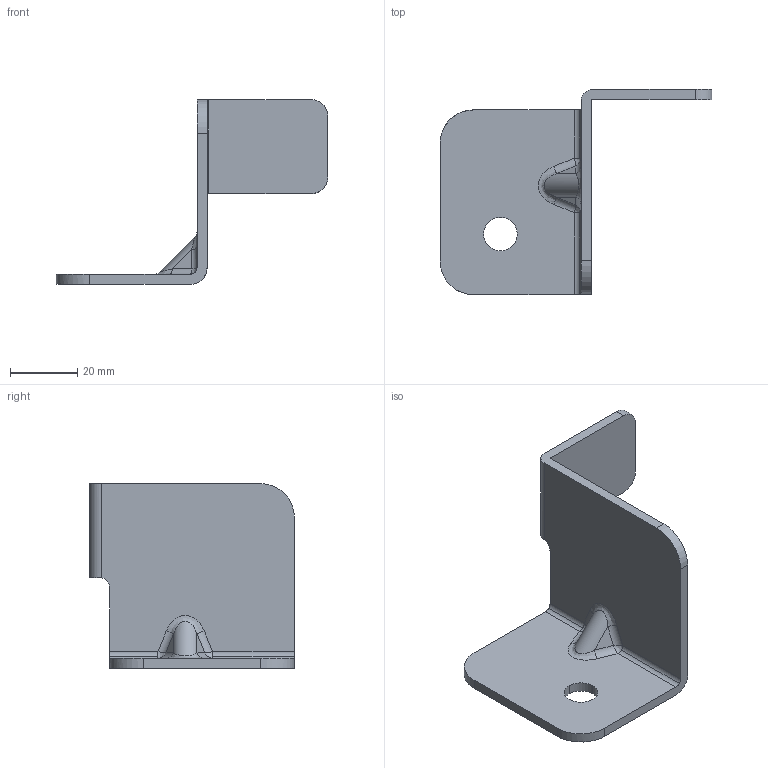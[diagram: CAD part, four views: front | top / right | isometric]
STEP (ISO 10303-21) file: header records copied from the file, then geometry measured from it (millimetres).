
FILE_DESCRIPTION(('CATIA V5 STEP Exchange'),'2;1');
FILE_NAME('E:\吉利商用车G3\3D\新开件\SHT0015282.stp','2022-12-11T06:44:14+00:00',('none'),('none'),'CATIA Version 5 Release 20 GA (IN-10)','CATIA V5 STEP AP214','none');
FILE_SCHEMA(('AUTOMOTIVE_DESIGN { 1 0 10303 214 1 1 1 1 }'));
Length unit declared in the file: millimetre
Products named in the file (1): Part60
Bounding box: 81 x 61 x 55 mm (x, y, z)
Volume: 18680.1 mm3; surface area: 13713.2 mm2
Topology: 1 solids, 1 shells, 55 faces, 143 edges, 84 vertices
Faces by surface type: cylinder 29, plane 16, bspline 6, sphere 4
Entity records: 2404 total; most frequent: CARTESIAN_POINT 1181, ORIENTED_EDGE 274, DIRECTION 193, EDGE_CURVE 137, VERTEX_POINT 84, AXIS2_PLACEMENT_3D 78, VECTOR 69, LINE 69
